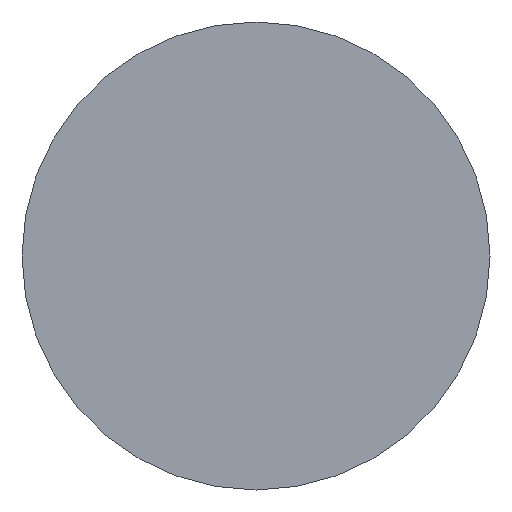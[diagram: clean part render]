
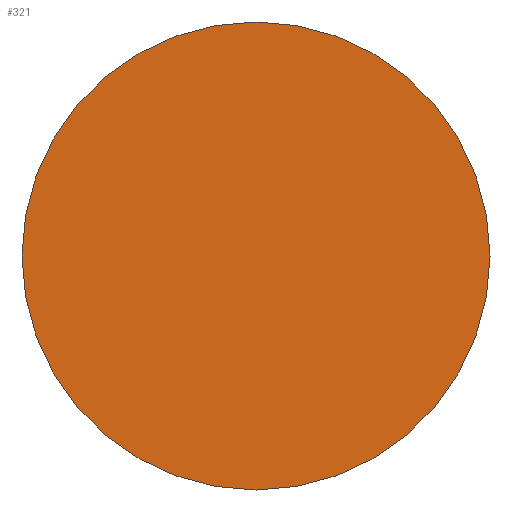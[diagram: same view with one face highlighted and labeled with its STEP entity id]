
A CAD part, left-side view. The second image highlights one B-rep face of the part: STEP entity #321.
In plain terms, the highlighted planar face has unit normal (-1, 0, 0).
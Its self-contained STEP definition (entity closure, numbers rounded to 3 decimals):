
#16=PLANE('',#376);
#28=FACE_OUTER_BOUND('',#44,.T.);
#44=EDGE_LOOP('',(#246,#247));
#92=CIRCLE('',#377,3.535);
#93=CIRCLE('',#378,3.535);
#131=VERTEX_POINT('',#582);
#132=VERTEX_POINT('',#583);
#174=EDGE_CURVE('',#131,#132,#92,.T.);
#175=EDGE_CURVE('',#132,#131,#93,.T.);
#246=ORIENTED_EDGE('',*,*,#174,.F.);
#247=ORIENTED_EDGE('',*,*,#175,.F.);
#321=ADVANCED_FACE('',(#28),#16,.T.);
#376=AXIS2_PLACEMENT_3D('',#581,#465,#466);
#377=AXIS2_PLACEMENT_3D('',#584,#467,#468);
#378=AXIS2_PLACEMENT_3D('',#585,#469,#470);
#465=DIRECTION('center_axis',(-1.,0.,0.));
#466=DIRECTION('ref_axis',(0.,0.,1.));
#467=DIRECTION('center_axis',(1.,0.,0.));
#468=DIRECTION('ref_axis',(0.,0.,-1.));
#469=DIRECTION('center_axis',(1.,0.,0.));
#470=DIRECTION('ref_axis',(0.,0.,-1.));
#581=CARTESIAN_POINT('Origin',(0.,3.535,0.));
#582=CARTESIAN_POINT('',(0.,3.535,0.));
#583=CARTESIAN_POINT('',(0.,-3.535,0.));
#584=CARTESIAN_POINT('Origin',(0.,0.,0.));
#585=CARTESIAN_POINT('Origin',(0.,0.,0.));
